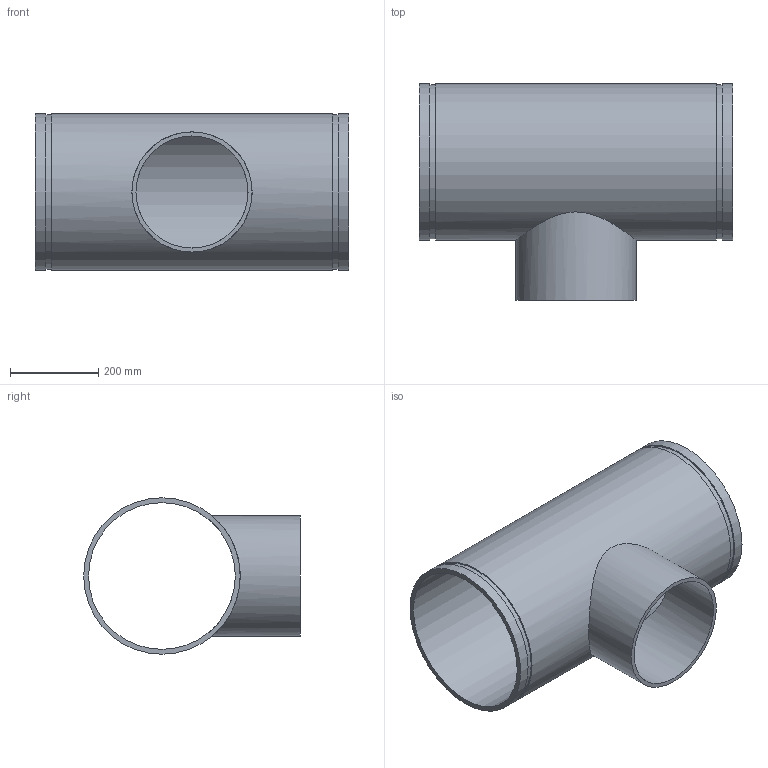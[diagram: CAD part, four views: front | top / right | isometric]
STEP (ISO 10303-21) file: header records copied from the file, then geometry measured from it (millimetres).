
FILE_DESCRIPTION(/* description */ ('VIC REDUCING TEE No 29T FFT (OGSxMPT)','CAx-IF Rec.Pracs.---Representation and Presentation of Product Manufacturing Information (PMI)---4.0---2014-10-13'),/* implementation_level */ '2;1');
FILE_NAME(/* name */ 'C:\Users\kkamble\AppData\Roaming\Autodesk\ApplicationPlugins\Back Up\Victaulic_IPS_Tee Reducing_No 29T FFT (OGSxMPT)\Victaulic_IPS_Tee Reducing_No 29T FFT (OGSxMPT)_14.0x10.0 (350x250).stp',/* time_stamp */ '2020-09-16T22:39:44+05:00',/* author */ ('CORINNE GRAY'),/* organization */ ('Victaulic'),/* preprocessor_version */ 'ST-DEVELOPER v17.2',/* originating_system */ 'Autodesk Inventor 2019',/* authorisation */ '');
FILE_SCHEMA (('AP242_MANAGED_MODEL_BASED_3D_ENGINEERING_MIM_LF { 1 0 10303 442 1 1 4 }'));
Length unit declared in the file: inch
Products named in the file (1): 29 FFT-14.0x10.0
Bounding box: 711.2 x 492.25 x 355.6 mm (x, y, z)
Volume: 9115677.2 mm3; surface area: 1746546 mm2
Topology: 1 solids, 1 shells, 15 faces, 32 edges, 24 vertices
Faces by surface type: cylinder 8, plane 7
Full cylindrical faces by diameter (mm): 254.508 x1, 273.05 x1, 333.4 x1, 350.037 x2, 355.6 x3
Entity records: 725 total; most frequent: CARTESIAN_POINT 237, DIRECTION 106, ORIENTED_EDGE 64, AXIS2_PLACEMENT_3D 49, EDGE_CURVE 32, EDGE_LOOP 24, VERTEX_POINT 24, CIRCLE 20
